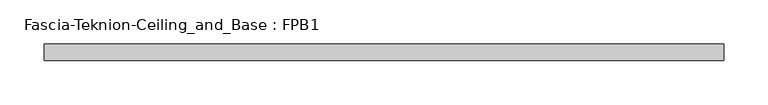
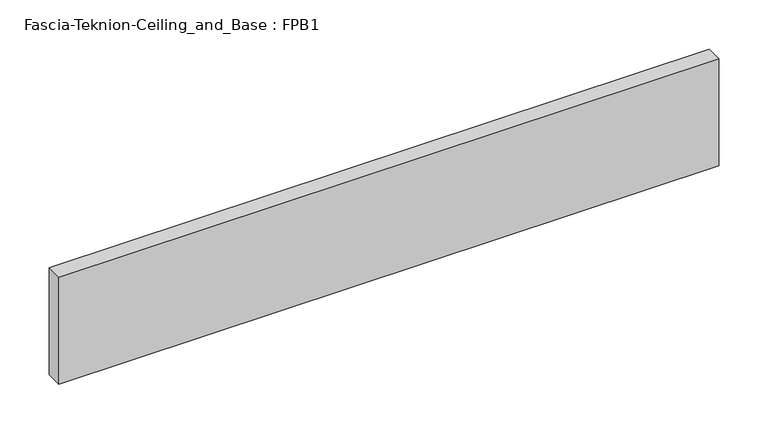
"""IFC4 building model written with IfcOpenShell, lengths in millimetres: proxy geometry, Fascia-Teknion-Ceiling_and_Base : FPB1."""

from ifc_helpers import new_model, si_unit, origin, origin_with_axes, place, context, project, spatial, polyline, outline, extrude, source, transform, mapped, element, save


def fascia_teknion_ceiling_and_base_fpb1_8c4cbf86(model_context):
    return source(origin(), model_context, "Body", "SweptSolid", [
        extrude(outline(polyline([(385.4152344, 0.0), (-385.4152344, 0.0), (-385.4152344, 19.05), (385.4152344, 19.05), (385.4152344, 0.0)])), origin_with_axes(), (0.0, 0.0, 1.0), 132.08),
    ])


if __name__ == "__main__":
    model = new_model("IFC4")
    model_context = context("Model", 3, world=origin())
    ifc_project = project(units=[si_unit("LENGTHUNIT", "METRE", prefix="MILLI")], contexts=[model_context])
    site = spatial("IfcSite", under=ifc_project)
    building = spatial("IfcBuilding", under=site)
    placement = place(None, origin())
    fascia_teknion_ceiling_and_base_fpb1_shape = fascia_teknion_ceiling_and_base_fpb1_8c4cbf86(model_context)
    element("IfcBuildingElementProxy", 1, Name="Fascia-Teknion-Ceiling_and_Base : FPB1", ObjectType="Fascia-Teknion-Ceiling_and_Base : FPB1", at=placement, inside=building, context=model_context, shape_type="MappedRepresentation", body=[
        mapped(fascia_teknion_ceiling_and_base_fpb1_shape, transform((0.0, 0.0, 0.0), x_axis=(1.0, 0.0, 0.0), y_axis=(0.0, 1.0, 0.0), z_axis=(0.0, 0.0, 1.0))),
    ])
    save(model, "model.ifc")
